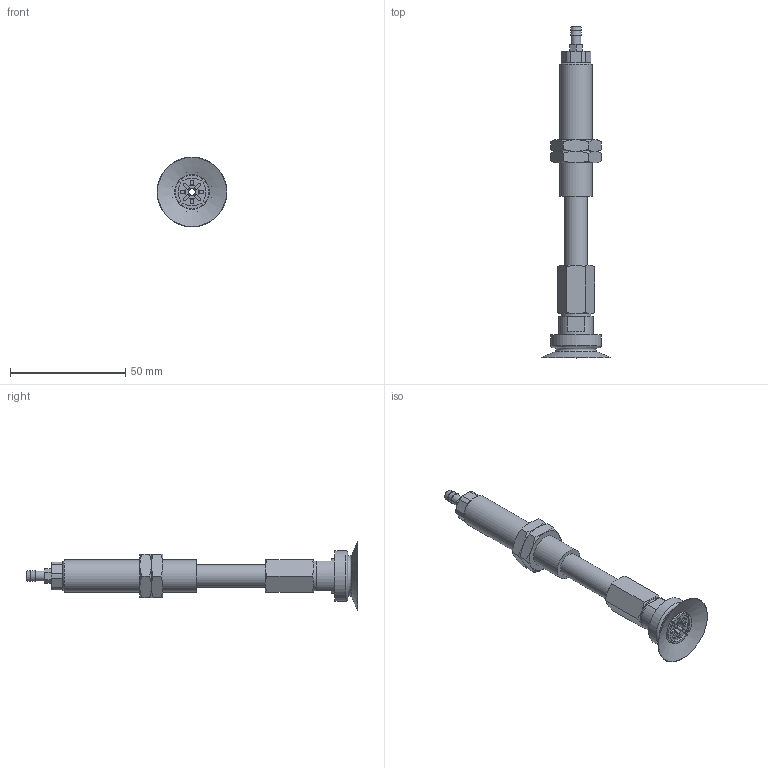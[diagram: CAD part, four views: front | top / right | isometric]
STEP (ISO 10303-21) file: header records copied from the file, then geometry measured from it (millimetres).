
FILE_DESCRIPTION(('STEP AP203'),'1');
FILE_NAME('-T.stp','2025-08-26T09:05:51',(' '),(' '),'Spatial InterOp 3D',' ',' ');
FILE_SCHEMA(('CONFIG_CONTROL_DESIGN'));
Length unit declared in the file: millimetre
Products named in the file (7): BNABPATS-30-30-※-T; ADAPTER; NAPATS-30B-30--M; NAPATS-30B-30--F; Nut-25-S; T; BPAG-30-※
Assembly tree (7 placements, depth 2):
  BNABPATS-30-30-※-T
    ADAPTER
    NAPATS-30B-30--M
    NAPATS-30B-30--F
    Nut-25-S  x2
    T
    BPAG-30-※
Bounding box: 30.3 x 144.2 x 30.3 mm (x, y, z)
Volume: 20614.6 mm3; surface area: 15510.2 mm2
Topology: 7 solids, 7 shells, 200 faces, 458 edges, 289 vertices
Faces by surface type: plane 89, cylinder 60, cone 49, torus 2
Full cylindrical faces by diameter (mm): 3 x4, 4.134 x1, 4.3 x1, 4.6 x1, 4.917 x1, 5 x1, 6 x1, 10 x2, 12.917 x2, 13 x1, 14 x1, 15 x1, 22 x1
Entity records: 5477 total; most frequent: CARTESIAN_POINT 1155, DIRECTION 867, ORIENTED_EDGE 752, EDGE_CURVE 376, AXIS2_PLACEMENT_3D 354, VERTEX_POINT 258, EDGE_LOOP 236, FACE_OUTER_BOUND 196
